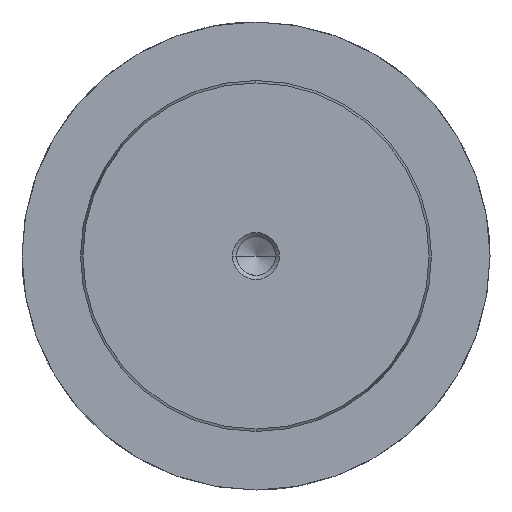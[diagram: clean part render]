
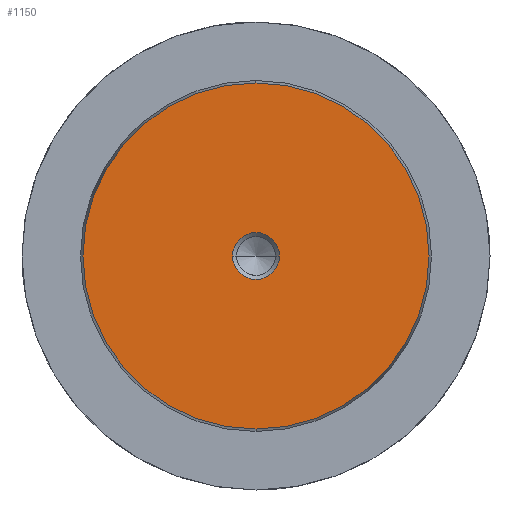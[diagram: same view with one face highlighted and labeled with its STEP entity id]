
A CAD part, left-side view. The second image highlights one B-rep face of the part: STEP entity #1150.
In plain terms, the highlighted planar face has unit normal (-1, 0, 0).
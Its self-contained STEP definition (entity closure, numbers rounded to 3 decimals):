
#1064=CARTESIAN_POINT('Vertex',(0.,0.,-29.578)) ;
#1067=CARTESIAN_POINT('Axis2P3D Location',(0.,0.,0.)) ;
#1071=CARTESIAN_POINT('Vertex',(0.,29.578,0.)) ;
#1074=CARTESIAN_POINT('Axis2P3D Location',(0.,0.,0.)) ;
#1078=CARTESIAN_POINT('Vertex',(0.,0.,29.578)) ;
#1100=CARTESIAN_POINT('Axis2P3D Location',(0.,0.,0.)) ;
#1104=CARTESIAN_POINT('Vertex',(0.,-29.578,0.)) ;
#1107=CARTESIAN_POINT('Axis2P3D Location',(0.,0.,0.)) ;
#1121=CARTESIAN_POINT('Axis2P3D Location',(0.,0.,0.)) ;
#1132=CARTESIAN_POINT('Axis2P3D Location',(0.,0.,0.)) ;
#1136=CARTESIAN_POINT('Vertex',(0.,4.,0.)) ;
#1138=CARTESIAN_POINT('Vertex',(0.,-4.,0.)) ;
#1141=CARTESIAN_POINT('Axis2P3D Location',(0.,0.,0.)) ;
#1068=DIRECTION('Axis2P3D Direction',(1.,0.,-0.)) ;
#1075=DIRECTION('Axis2P3D Direction',(1.,0.,-0.)) ;
#1101=DIRECTION('Axis2P3D Direction',(1.,0.,-0.)) ;
#1108=DIRECTION('Axis2P3D Direction',(1.,0.,-0.)) ;
#1122=DIRECTION('Axis2P3D Direction',(1.,0.,-0.)) ;
#1123=DIRECTION('Axis2P3D XDirection',(-0.,0.,-1.)) ;
#1133=DIRECTION('Axis2P3D Direction',(1.,0.,-0.)) ;
#1142=DIRECTION('Axis2P3D Direction',(1.,0.,-0.)) ;
#1069=AXIS2_PLACEMENT_3D('Circle Axis2P3D',#1067,#1068,$) ;
#1076=AXIS2_PLACEMENT_3D('Circle Axis2P3D',#1074,#1075,$) ;
#1102=AXIS2_PLACEMENT_3D('Circle Axis2P3D',#1100,#1101,$) ;
#1109=AXIS2_PLACEMENT_3D('Circle Axis2P3D',#1107,#1108,$) ;
#1124=AXIS2_PLACEMENT_3D('Plane Axis2P3D',#1121,#1122,#1123) ;
#1134=AXIS2_PLACEMENT_3D('Circle Axis2P3D',#1132,#1133,$) ;
#1143=AXIS2_PLACEMENT_3D('Circle Axis2P3D',#1141,#1142,$) ;
#1127=ORIENTED_EDGE('',*,*,#1073,.F.) ;
#1128=ORIENTED_EDGE('',*,*,#1111,.F.) ;
#1129=ORIENTED_EDGE('',*,*,#1106,.F.) ;
#1130=ORIENTED_EDGE('',*,*,#1080,.F.) ;
#1147=ORIENTED_EDGE('',*,*,#1140,.T.) ;
#1148=ORIENTED_EDGE('',*,*,#1145,.T.) ;
#1149=FACE_BOUND('',#1146,.T.) ;
#1150=ADVANCED_FACE('718-60x250',(#1131,#1149),#1125,.F.) ;
#1070=CIRCLE('generated circle',#1069,29.578) ;
#1077=CIRCLE('generated circle',#1076,29.578) ;
#1103=CIRCLE('generated circle',#1102,29.578) ;
#1110=CIRCLE('generated circle',#1109,29.578) ;
#1135=CIRCLE('generated circle',#1134,4.) ;
#1144=CIRCLE('generated circle',#1143,4.) ;
#1073=EDGE_CURVE('',#1065,#1072,#1070,.T.) ;
#1080=EDGE_CURVE('',#1072,#1079,#1077,.T.) ;
#1106=EDGE_CURVE('',#1079,#1105,#1103,.T.) ;
#1111=EDGE_CURVE('',#1105,#1065,#1110,.T.) ;
#1140=EDGE_CURVE('',#1137,#1139,#1135,.T.) ;
#1145=EDGE_CURVE('',#1139,#1137,#1144,.T.) ;
#1126=EDGE_LOOP('',(#1127,#1128,#1129,#1130)) ;
#1146=EDGE_LOOP('',(#1147,#1148)) ;
#1131=FACE_OUTER_BOUND('',#1126,.T.) ;
#1125=PLANE('Plane',#1124) ;
#1065=VERTEX_POINT('',#1064) ;
#1072=VERTEX_POINT('',#1071) ;
#1079=VERTEX_POINT('',#1078) ;
#1105=VERTEX_POINT('',#1104) ;
#1137=VERTEX_POINT('',#1136) ;
#1139=VERTEX_POINT('',#1138) ;
